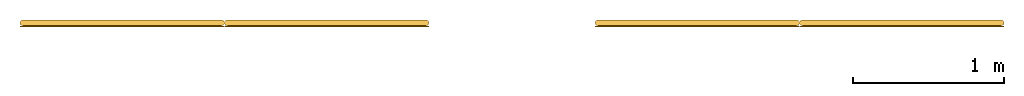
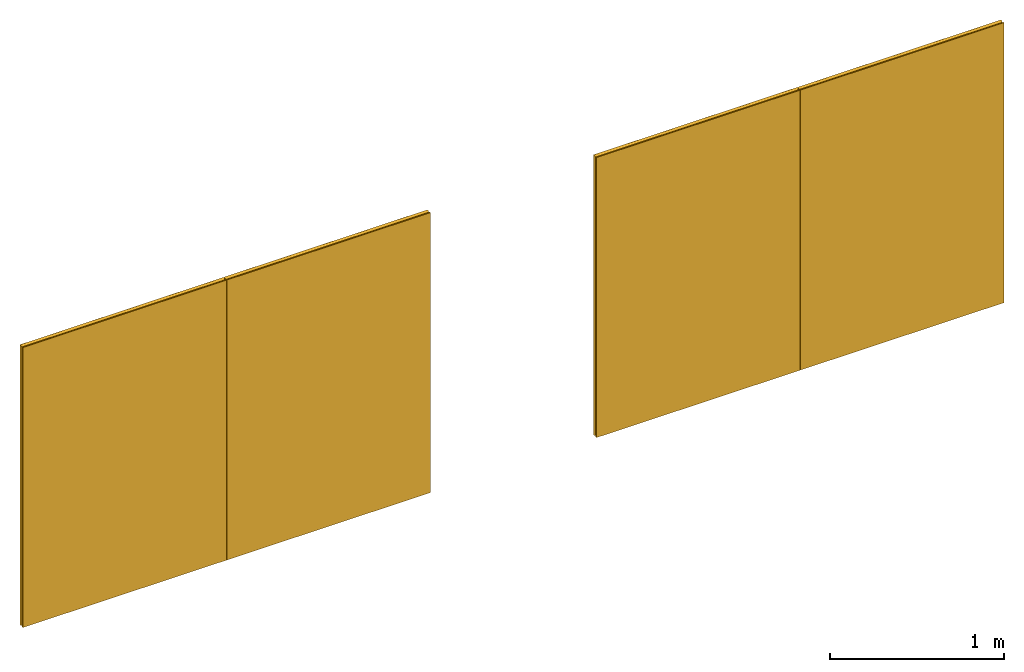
# One storey: 2 doors.
"""IFC2X3 building model written with IfcOpenShell, lengths in metres."""

from ifc_helpers import new_model, entity, si_unit, converted_unit, frame, origin, place, context, project, spatial, face_set, surface_model, source, transform, mapped, type_object, type_shapes, element, save


model = new_model("IFC2X3")

# Units and contexts
model_context = context("Model", 3, precision=1e-09, world=origin())
plan_context = context("Plan", 3, precision=1e-09, world=origin())
ifc_project = project(units=[si_unit("LENGTHUNIT", "METRE"), si_unit("AREAUNIT", "SQUARE_METRE"), si_unit("VOLUMEUNIT", "CUBIC_METRE"), converted_unit("PLANEANGLEUNIT", "DEGREE", entity("IfcRatioMeasure", 0.01745329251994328), si_unit("PLANEANGLEUNIT", "RADIAN"), dimensions=[0, 0, 0, 0, 0, 0, 0]), si_unit("TIMEUNIT", "SECOND")], contexts=[model_context, plan_context])

# Site, building, storey
site_placement = place(None, origin())
site = spatial("IfcSite", under=ifc_project, at=site_placement, Name="Default", CompositionType="ELEMENT")
building_placement = place(site_placement, origin())
building = spatial("IfcBuilding", under=site, at=building_placement, CompositionType="ELEMENT")
storey_placement = place(building_placement, frame((0.0, 0.0, -1.0)))
storey = spatial("IfcBuildingStorey", under=building, at=storey_placement, Name="TOF Footing", CompositionType="ELEMENT", Elevation=-1.000000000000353)

# Doors
door_style = type_object("IfcDoorStyle", Name="M_Curtain Wall Dbl Chain Link", ConstructionType="NOTDEFINED", OperationType="NOTDEFINED", ParameterTakesPrecedence=False, Sizeable=False)
shared_shape = source(origin(), model_context, "Body", "SurfaceModel", [
    surface_model("IfcFaceBasedSurfaceModel", [(-0.001587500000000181, -0.019, 1.962), (-0.001587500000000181, -0.019, 0.0), (-1.350999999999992, -0.019, 0.0), (-1.350999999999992, -0.019, 1.962), (-0.001587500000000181, -0.0269999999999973, 1.962), (-0.001587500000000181, -0.0269999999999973, 0.0), (-1.350999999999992, -0.0269999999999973, 0.0), (-1.350999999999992, -0.0269999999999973, 1.962), (0.00158749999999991, -0.019, 1.962), (1.350999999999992, -0.019, 1.962), (1.350999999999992, -0.019, 0.0), (0.00158749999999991, -0.019, 0.0), (0.00158749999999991, -0.02700000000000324, 1.962), (1.350999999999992, -0.02700000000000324, 1.962), (1.350999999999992, -0.02700000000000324, 0.0), (0.001587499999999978, -0.02700000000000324, 0.0), (1.313647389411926, 0.004917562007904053, 0.03735259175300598), (1.315545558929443, 0.009499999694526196, 0.03545448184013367), (1.313933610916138, 0.005882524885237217, 0.845533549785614), (1.312999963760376, 0.0, 0.03799999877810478), (1.312999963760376, 0.0, 0.8445999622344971), (1.3163822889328, 0.01082068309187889, 0.8479823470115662), (1.318565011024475, 0.01343502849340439, 0.03243502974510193), (1.322499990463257, 0.01645448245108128, 0.02850000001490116), (1.319748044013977, 0.01452208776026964, 0.8513481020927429), (1.32361900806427, 0.01705167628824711, 0.8552190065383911), (1.327082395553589, 0.01835259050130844, 0.02391756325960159), (1.312999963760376, 0.0, 0.882599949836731), (1.313689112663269, 0.005070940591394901, 0.8819108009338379), (1.313647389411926, 0.004917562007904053, 1.924647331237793), (1.312999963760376, 0.0, 1.924000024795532), (1.315545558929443, 0.009499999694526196, 1.92654550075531), (1.315555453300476, 0.009517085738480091, 0.8800446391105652), (1.318212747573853, 0.01307328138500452, 0.877387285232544), (1.318565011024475, 0.01343502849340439, 1.929564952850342), (1.321350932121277, 0.01573517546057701, 0.8742491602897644), (1.322499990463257, 0.01645448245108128, 1.933500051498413), (1.324772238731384, 0.01757153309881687, 0.8708277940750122), (1.336917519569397, 0.01835259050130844, 0.01408243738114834), (1.331999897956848, 0.01899999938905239, 0.01899999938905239), (1.331999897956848, 0.01899999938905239, 0.863599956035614), (1.336917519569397, 0.01835259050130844, 1.947917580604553), (1.327754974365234, 0.01851973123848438, 0.8593550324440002), (1.350352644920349, 0.004917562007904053, 1.961352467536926), (1.350352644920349, 0.004917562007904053, 0.0006474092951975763), (1.348454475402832, 0.009499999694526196, 0.002545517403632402), (1.348454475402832, 0.009499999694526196, 1.959454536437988), (1.3454350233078, 0.01343502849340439, 0.00556497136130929), (1.3454350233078, 0.01343502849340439, 1.956435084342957), (1.341499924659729, 0.01645448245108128, 0.009499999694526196), (1.341499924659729, 0.01645448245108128, 1.952499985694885), (1.35099995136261, 0.0, 1.962000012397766), (1.35099995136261, 0.0, 0.0), (1.328351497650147, 0.01864641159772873, 0.8672484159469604), (1.327082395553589, 0.01835259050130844, 1.938082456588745), (1.331999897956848, 0.01899999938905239, 1.942999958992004), (1.350352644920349, -0.004917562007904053, 0.0006474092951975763), (1.350352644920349, -0.004917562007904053, 1.961352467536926), (1.3454350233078, -0.01343502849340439, 1.956435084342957), (1.3454350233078, -0.01343502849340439, 0.00556497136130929), (1.348454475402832, -0.009499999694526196, 0.002545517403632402), (1.348454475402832, -0.009499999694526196, 1.959454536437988), (1.341499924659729, -0.01645448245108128, 1.952499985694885), (1.341499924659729, -0.01645448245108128, 0.009499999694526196), (1.331999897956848, -0.01899999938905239, 0.863599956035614), (1.331999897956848, -0.01899999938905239, 0.01899999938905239), (1.336917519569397, -0.01835259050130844, 0.01408243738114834), (1.336917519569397, -0.01835259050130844, 1.947917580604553), (1.328351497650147, -0.01864641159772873, 0.8599514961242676), (1.327082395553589, -0.01835259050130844, 0.02391756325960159), (1.328351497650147, -0.01864641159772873, 0.8672484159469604), (1.324772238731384, -0.01757153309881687, 0.8708277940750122), (1.327082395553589, -0.01835259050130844, 1.938082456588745), (1.331999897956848, -0.01899999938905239, 1.942999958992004), (1.322499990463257, -0.01645448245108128, 1.933500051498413), (1.324772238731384, -0.01757153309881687, 0.8563722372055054), (1.322499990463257, -0.01645448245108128, 0.02850000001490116), (1.318565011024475, -0.01343502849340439, 0.03243502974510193), (1.321350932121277, -0.01573517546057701, 0.8529508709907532), (1.318212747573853, -0.01307328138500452, 0.8498127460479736), (1.315545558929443, -0.009499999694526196, 0.03545448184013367), (1.315555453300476, -0.009517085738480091, 0.8471553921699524), (1.313647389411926, -0.004917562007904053, 0.03735259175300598), (1.313689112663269, -0.005070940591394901, 0.8452891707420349), (1.321350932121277, -0.01573517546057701, 0.8742491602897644), (1.318565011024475, -0.01343502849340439, 1.929564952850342), (1.318212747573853, -0.01307328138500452, 0.877387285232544), (1.315545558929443, -0.009499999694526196, 1.92654550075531), (1.313689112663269, -0.005070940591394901, 0.8819108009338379), (1.313647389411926, -0.004917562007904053, 1.924647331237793), (1.315555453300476, -0.009517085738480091, 0.8800446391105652), (0.0262278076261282, 0.01757153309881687, 0.8708277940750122), (0.02264847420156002, 0.01864641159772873, 0.8672484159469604), (0.01899999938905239, 0.01899999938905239, 0.863599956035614), (0.03278728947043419, 0.01307328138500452, 0.877387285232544), (0.02964914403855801, 0.01573517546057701, 0.8742491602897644), (0.03731080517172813, 0.005070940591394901, 0.8819108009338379), (0.03544460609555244, 0.009517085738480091, 0.8800446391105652), (0.03799999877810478, 0.0, 0.882599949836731), (0.03278728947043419, -0.01307328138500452, 0.877387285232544), (0.03544460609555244, -0.009517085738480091, 0.8800446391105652), (0.03731080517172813, -0.005070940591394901, 0.8819108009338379), (0.02264847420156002, -0.01864641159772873, 0.8672484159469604), (0.01899999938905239, -0.01899999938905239, 0.863599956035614), (0.0262278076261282, -0.01757153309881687, 0.8708277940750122), (0.02964914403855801, -0.01573517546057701, 0.8742491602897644), (0.02264847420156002, -0.01864641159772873, 0.8599514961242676), (0.0262278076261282, -0.01757153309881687, 0.8563722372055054), (0.02964914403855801, -0.01573517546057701, 0.8529508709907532), (0.03278728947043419, -0.01307328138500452, 0.8498127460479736), (0.03544460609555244, -0.009517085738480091, 0.8471553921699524), (0.03731080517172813, -0.005070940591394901, 0.8452891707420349), (0.03799999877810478, 0.0, 0.8445999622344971), (0.03706642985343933, 0.005882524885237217, 0.845533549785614), (0.03461770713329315, 0.01082068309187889, 0.8479823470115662), (0.0232449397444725, 0.01851973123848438, 0.8593550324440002), (0.03125189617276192, 0.01452208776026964, 0.8513481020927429), (0.02738095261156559, 0.01705167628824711, 0.8552190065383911), (0.03735259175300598, 0.004917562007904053, 0.03735259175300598), (0.03545448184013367, 0.009499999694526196, 0.03545448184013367), (0.03799999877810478, 0.0, 0.03799999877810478), (0.02850000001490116, 0.01645448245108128, 0.02850000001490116), (0.02391756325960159, 0.01835259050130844, 0.02391756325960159), (0.03243502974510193, 0.01343502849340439, 0.03243502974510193), (0.01899999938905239, 0.01899999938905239, 0.01899999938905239), (0.009499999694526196, 0.01645448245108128, 0.009499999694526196), (0.01408243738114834, 0.01835259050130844, 0.01408243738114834), (0.00556497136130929, 0.01343502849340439, 0.00556497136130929), (0.0006474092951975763, 0.004917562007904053, 0.0006474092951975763), (0.002545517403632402, 0.009499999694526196, 0.002545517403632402), (0.0, 0.0, 0.0), (0.0006474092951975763, -0.004917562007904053, 0.0006474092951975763), (0.002545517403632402, -0.009499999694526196, 0.002545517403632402), (0.009499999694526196, -0.01645448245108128, 0.009499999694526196), (0.00556497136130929, -0.01343502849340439, 0.00556497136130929), (0.01408243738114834, -0.01835259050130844, 0.01408243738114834), (0.01899999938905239, -0.01899999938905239, 0.01899999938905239), (0.02391756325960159, -0.01835259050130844, 0.02391756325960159), (0.02850000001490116, -0.01645448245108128, 0.02850000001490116), (0.03545448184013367, -0.009499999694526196, 0.03545448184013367), (0.03735259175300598, -0.004917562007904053, 0.03735259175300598), (0.03243502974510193, -0.01343502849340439, 0.03243502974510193), (0.03545448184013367, 0.009499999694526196, 1.92654550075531), (0.03735259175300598, 0.004917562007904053, 1.924647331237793), (0.03799999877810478, 0.0, 1.924000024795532), (0.03243502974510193, 0.01343502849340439, 1.929564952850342), (0.02850000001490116, 0.01645448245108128, 1.933500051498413), (0.01899999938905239, 0.01899999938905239, 1.942999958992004), (0.02391756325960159, 0.01835259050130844, 1.938082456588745), (0.01408243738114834, 0.01835259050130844, 1.947917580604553), (0.0006474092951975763, 0.004917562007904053, 1.961352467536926), (0.002545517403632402, 0.009499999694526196, 1.959454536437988), (0.00556497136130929, 0.01343502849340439, 1.956435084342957), (0.009499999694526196, 0.01645448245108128, 1.952499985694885), (0.0, 0.0, 1.962000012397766), (0.0006474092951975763, -0.004917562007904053, 1.961352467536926), (0.00556497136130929, -0.01343502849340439, 1.956435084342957), (0.002545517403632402, -0.009499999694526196, 1.959454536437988), (0.009499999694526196, -0.01645448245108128, 1.952499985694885), (0.01899999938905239, -0.01899999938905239, 1.942999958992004), (0.01408243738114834, -0.01835259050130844, 1.947917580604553), (0.02391756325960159, -0.01835259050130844, 1.938082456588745), (0.02850000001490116, -0.01645448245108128, 1.933500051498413), (0.03243502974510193, -0.01343502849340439, 1.929564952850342), (0.03545448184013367, -0.009499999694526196, 1.92654550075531), (0.03735259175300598, -0.004917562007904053, 1.924647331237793), (-0.03735259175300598, 0.004917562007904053, 0.03735259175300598), (-0.03545448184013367, 0.009499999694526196, 0.03545448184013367), (-0.03706642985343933, 0.005882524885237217, 0.845533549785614), (-0.03799999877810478, 0.0, 0.03799999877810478), (-0.03799999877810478, 0.0, 0.8445999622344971), (-0.03461770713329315, 0.01082068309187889, 0.8479823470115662), (-0.03243502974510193, 0.01343502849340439, 0.03243502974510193), (-0.02850000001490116, 0.01645448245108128, 0.02850000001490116), (-0.03125189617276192, 0.01452208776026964, 0.8513481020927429), (-0.02738095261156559, 0.01705167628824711, 0.8552190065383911), (-0.02391756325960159, 0.01835259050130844, 0.02391756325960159), (-0.03799999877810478, 0.0, 0.882599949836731), (-0.03731080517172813, 0.005070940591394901, 0.8819108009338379), (-0.03735259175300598, 0.004917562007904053, 1.924647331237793), (-0.03799999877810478, 0.0, 1.924000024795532), (-0.03545448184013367, 0.009499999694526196, 1.92654550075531), (-0.03544460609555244, 0.009517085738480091, 0.8800446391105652), (-0.03278728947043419, 0.01307328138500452, 0.877387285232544), (-0.03243502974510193, 0.01343502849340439, 1.929564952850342), (-0.02964914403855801, 0.01573517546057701, 0.8742491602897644), (-0.02850000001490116, 0.01645448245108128, 1.933500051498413), (-0.0262278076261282, 0.01757153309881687, 0.8708277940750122), (-0.01408243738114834, 0.01835259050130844, 0.01408243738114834), (-0.01899999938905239, 0.01899999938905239, 0.01899999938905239), (-0.01899999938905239, 0.01899999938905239, 0.863599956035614), (-0.01408243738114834, 0.01835259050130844, 1.947917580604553), (-0.0232449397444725, 0.01851973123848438, 0.8593550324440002), (-0.0006474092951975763, 0.004917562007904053, 1.961352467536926), (-0.0006474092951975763, 0.004917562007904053, 0.0006474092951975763), (-0.002545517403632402, 0.009499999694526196, 0.002545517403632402), (-0.002545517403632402, 0.009499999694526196, 1.959454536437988), (-0.00556497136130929, 0.01343502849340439, 0.00556497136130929), (-0.00556497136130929, 0.01343502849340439, 1.956435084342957), (-0.009499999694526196, 0.01645448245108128, 0.009499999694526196), (-0.009499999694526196, 0.01645448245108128, 1.952499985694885), (0.0, 0.0, 1.962000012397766), (-0.02264847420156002, 0.01864641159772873, 0.8672484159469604), (-0.02391756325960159, 0.01835259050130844, 1.938082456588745), (-0.01899999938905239, 0.01899999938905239, 1.942999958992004), (-0.0006474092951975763, -0.004917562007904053, 0.0006474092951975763), (-0.0006474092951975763, -0.004917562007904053, 1.961352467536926), (-0.00556497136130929, -0.01343502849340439, 1.956435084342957), (-0.00556497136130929, -0.01343502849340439, 0.00556497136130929), (-0.002545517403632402, -0.009499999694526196, 0.002545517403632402), (-0.002545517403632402, -0.009499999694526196, 1.959454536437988), (-0.009499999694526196, -0.01645448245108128, 1.952499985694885), (-0.009499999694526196, -0.01645448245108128, 0.009499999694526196), (-0.01899999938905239, -0.01899999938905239, 0.863599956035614), (-0.01899999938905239, -0.01899999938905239, 0.01899999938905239), (-0.01408243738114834, -0.01835259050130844, 0.01408243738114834), (-0.01408243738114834, -0.01835259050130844, 1.947917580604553), (-0.02264847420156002, -0.01864641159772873, 0.8599514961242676), (-0.02391756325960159, -0.01835259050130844, 0.02391756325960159), (-0.02264847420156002, -0.01864641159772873, 0.8672484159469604), (-0.0262278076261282, -0.01757153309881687, 0.8708277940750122), (-0.02391756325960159, -0.01835259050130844, 1.938082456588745), (-0.01899999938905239, -0.01899999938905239, 1.942999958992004), (-0.02850000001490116, -0.01645448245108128, 1.933500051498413), (-0.0262278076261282, -0.01757153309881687, 0.8563722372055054), (-0.02850000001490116, -0.01645448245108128, 0.02850000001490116), (-0.03243502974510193, -0.01343502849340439, 0.03243502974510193), (-0.02964914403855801, -0.01573517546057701, 0.8529508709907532), (-0.03278728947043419, -0.01307328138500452, 0.8498127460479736), (-0.03545448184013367, -0.009499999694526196, 0.03545448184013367), (-0.03544460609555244, -0.009517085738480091, 0.8471553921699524), (-0.03735259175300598, -0.004917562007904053, 0.03735259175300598), (-0.03731080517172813, -0.005070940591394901, 0.8452891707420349), (-0.02964914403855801, -0.01573517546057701, 0.8742491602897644), (-0.03243502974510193, -0.01343502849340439, 1.929564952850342), (-0.03278728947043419, -0.01307328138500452, 0.877387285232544), (-0.03545448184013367, -0.009499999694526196, 1.92654550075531), (-0.03731080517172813, -0.005070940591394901, 0.8819108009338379), (-0.03735259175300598, -0.004917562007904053, 1.924647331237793), (-0.03544460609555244, -0.009517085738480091, 0.8800446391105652), (-1.324772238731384, 0.01757153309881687, 0.8708277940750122), (-1.328351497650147, 0.01864641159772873, 0.8672484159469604), (-1.331999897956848, 0.01899999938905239, 0.863599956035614), (-1.318212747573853, 0.01307328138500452, 0.877387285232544), (-1.321350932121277, 0.01573517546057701, 0.8742491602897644), (-1.313689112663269, 0.005070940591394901, 0.8819108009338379), (-1.315555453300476, 0.009517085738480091, 0.8800446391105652), (-1.312999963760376, 0.0, 0.882599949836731), (-1.318212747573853, -0.01307328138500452, 0.877387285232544), (-1.315555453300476, -0.009517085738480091, 0.8800446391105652), (-1.313689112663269, -0.005070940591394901, 0.8819108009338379), (-1.328351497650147, -0.01864641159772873, 0.8672484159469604), (-1.331999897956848, -0.01899999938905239, 0.863599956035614), (-1.324772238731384, -0.01757153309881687, 0.8708277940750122), (-1.321350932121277, -0.01573517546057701, 0.8742491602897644), (-1.328351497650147, -0.01864641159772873, 0.8599514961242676), (-1.324772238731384, -0.01757153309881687, 0.8563722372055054), (-1.321350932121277, -0.01573517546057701, 0.8529508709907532), (-1.318212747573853, -0.01307328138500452, 0.8498127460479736), (-1.315555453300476, -0.009517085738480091, 0.8471553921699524), (-1.313689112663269, -0.005070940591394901, 0.8452891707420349), (-1.312999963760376, 0.0, 0.8445999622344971), (-1.313933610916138, 0.005882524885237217, 0.845533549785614), (-1.3163822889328, 0.01082068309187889, 0.8479823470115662), (-1.327754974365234, 0.01851973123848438, 0.8593550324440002), (-1.319748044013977, 0.01452208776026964, 0.8513481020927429), (-1.32361900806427, 0.01705167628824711, 0.8552190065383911), (-1.313647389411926, 0.004917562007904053, 0.03735259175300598), (-1.315545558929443, 0.009499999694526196, 0.03545448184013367), (-1.312999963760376, 0.0, 0.03799999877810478), (-1.322499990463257, 0.01645448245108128, 0.02850000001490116), (-1.327082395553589, 0.01835259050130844, 0.02391756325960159), (-1.318565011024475, 0.01343502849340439, 0.03243502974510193), (-1.331999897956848, 0.01899999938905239, 0.01899999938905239), (-1.341499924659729, 0.01645448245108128, 0.009499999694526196), (-1.336917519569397, 0.01835259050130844, 0.01408243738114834), (-1.3454350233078, 0.01343502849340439, 0.00556497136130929), (-1.350352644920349, 0.004917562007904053, 0.0006474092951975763), (-1.348454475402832, 0.009499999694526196, 0.002545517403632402), (-1.35099995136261, 0.0, 0.0), (-1.350352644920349, -0.004917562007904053, 0.0006474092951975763), (-1.348454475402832, -0.009499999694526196, 0.002545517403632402), (-1.341499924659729, -0.01645448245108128, 0.009499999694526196), (-1.3454350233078, -0.01343502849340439, 0.00556497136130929), (-1.336917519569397, -0.01835259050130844, 0.01408243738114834), (-1.331999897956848, -0.01899999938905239, 0.01899999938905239), (-1.327082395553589, -0.01835259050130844, 0.02391756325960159), (-1.322499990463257, -0.01645448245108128, 0.02850000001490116), (-1.315545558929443, -0.009499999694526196, 0.03545448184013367), (-1.313647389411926, -0.004917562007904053, 0.03735259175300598), (-1.318565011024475, -0.01343502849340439, 0.03243502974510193), (-1.315545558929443, 0.009499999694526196, 1.92654550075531), (-1.313647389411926, 0.004917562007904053, 1.924647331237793), (-1.312999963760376, 0.0, 1.924000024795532), (-1.318565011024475, 0.01343502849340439, 1.929564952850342), (-1.322499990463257, 0.01645448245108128, 1.933500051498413), (-1.331999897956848, 0.01899999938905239, 1.942999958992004), (-1.327082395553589, 0.01835259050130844, 1.938082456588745), (-1.336917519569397, 0.01835259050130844, 1.947917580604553), (-1.350352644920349, 0.004917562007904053, 1.961352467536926), (-1.348454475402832, 0.009499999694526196, 1.959454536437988), (-1.3454350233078, 0.01343502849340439, 1.956435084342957), (-1.341499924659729, 0.01645448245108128, 1.952499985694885), (-1.35099995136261, 0.0, 1.962000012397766), (-1.350352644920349, -0.004917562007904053, 1.961352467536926), (-1.3454350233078, -0.01343502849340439, 1.956435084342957), (-1.348454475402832, -0.009499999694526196, 1.959454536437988), (-1.341499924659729, -0.01645448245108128, 1.952499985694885), (-1.331999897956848, -0.01899999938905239, 1.942999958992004), (-1.336917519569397, -0.01835259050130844, 1.947917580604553), (-1.327082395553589, -0.01835259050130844, 1.938082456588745), (-1.322499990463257, -0.01645448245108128, 1.933500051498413), (-1.318565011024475, -0.01343502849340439, 1.929564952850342), (-1.315545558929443, -0.009499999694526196, 1.92654550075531), (-1.313647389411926, -0.004917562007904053, 1.924647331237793)], [face_set([[[0, 1, 2, 3]], [[4, 5, 6, 7]], [[3, 0, 4, 7]], [[2, 3, 7, 6]], [[1, 5, 6, 2]], [[0, 4, 5, 1]]]), face_set([[[8, 9, 10, 11]], [[12, 13, 14, 15]], [[11, 15, 12, 8]], [[10, 14, 15, 11]], [[9, 10, 14, 13]], [[8, 9, 13, 12]]]), face_set([[[16, 17, 18]], [[19, 16, 20]], [[20, 16, 18]], [[17, 21, 18]], [[22, 23, 24]], [[24, 21, 22]], [[25, 24, 23]], [[25, 23, 26]], [[22, 21, 17]], [[27, 28, 29]], [[29, 30, 27]], [[29, 28, 31]], [[32, 31, 28]], [[33, 31, 32]], [[34, 33, 35]], [[33, 34, 31]], [[35, 36, 34]], [[37, 36, 35]], [[38, 39, 40, 41]], [[42, 26, 39]], [[42, 39, 40]], [[43, 44, 45, 46]], [[46, 45, 47, 48]], [[48, 47, 49, 50]], [[50, 49, 38, 41]], [[51, 52, 44, 43]], [[37, 53, 54]], [[53, 55, 54]], [[53, 40, 55]], [[40, 55, 41]], [[37, 54, 36]], [[25, 26, 42]], [[56, 52, 51, 57]], [[58, 59, 60, 61]], [[61, 60, 56, 57]], [[62, 63, 59, 58]], [[64, 65, 66, 67]], [[65, 68, 64]], [[68, 65, 69]], [[67, 66, 63, 62]], [[70, 71, 72]], [[64, 67, 73]], [[73, 70, 72]], [[71, 74, 72]], [[73, 64, 70]], [[68, 69, 75]], [[76, 77, 78]], [[79, 78, 77]], [[80, 81, 79]], [[79, 77, 80]], [[76, 78, 75]], [[80, 82, 83]], [[82, 20, 83]], [[20, 82, 19]], [[80, 83, 81]], [[84, 74, 71]], [[84, 85, 74]], [[85, 84, 86]], [[85, 86, 87]], [[88, 27, 89]], [[90, 88, 87]], [[89, 87, 88]], [[30, 89, 27]], [[90, 87, 86]], [[76, 75, 69]], [[91, 92, 53, 37]], [[92, 53, 40, 93]], [[94, 95, 35, 33]], [[96, 97, 32, 28]], [[97, 94, 33, 32]], [[95, 91, 37, 35]], [[28, 27, 98, 96]], [[99, 100, 90, 86]], [[100, 101, 88, 90]], [[64, 70, 102, 103]], [[104, 105, 84, 71]], [[102, 104, 71, 70]], [[105, 99, 86, 84]], [[27, 88, 101, 98]], [[75, 68, 106, 107]], [[68, 64, 103, 106]], [[79, 78, 108, 109]], [[83, 81, 110, 111]], [[81, 79, 109, 110]], [[78, 75, 107, 108]], [[20, 83, 111, 112]], [[21, 18, 113, 114]], [[18, 20, 112, 113]], [[40, 42, 115, 93]], [[25, 24, 116, 117]], [[42, 25, 117, 115]], [[24, 21, 114, 116]], [[16, 118, 119, 17]], [[19, 120, 118, 16]], [[23, 121, 122, 26]], [[22, 123, 121, 23]], [[17, 119, 123, 22]], [[124, 39, 26, 122]], [[49, 125, 126, 38]], [[47, 127, 125, 49]], [[44, 128, 129, 45]], [[45, 129, 127, 47]], [[52, 130, 128, 44]], [[38, 126, 124, 39]], [[131, 130, 52, 56]], [[60, 132, 131, 56]], [[63, 133, 134, 59]], [[59, 134, 132, 60]], [[66, 135, 133, 63]], [[135, 66, 65, 136]], [[69, 137, 138, 76]], [[65, 136, 137, 69]], [[80, 139, 140, 82]], [[77, 141, 139, 80]], [[76, 138, 141, 77]], [[120, 19, 82, 140]], [[142, 96, 143]], [[144, 143, 98]], [[98, 143, 96]], [[142, 97, 96]], [[145, 146, 95]], [[97, 142, 94]], [[95, 94, 145]], [[91, 95, 146]], [[94, 142, 145]], [[113, 118, 112]], [[118, 120, 112]], [[119, 118, 113]], [[114, 119, 113]], [[123, 116, 121]], [[114, 123, 119]], [[123, 114, 116]], [[121, 116, 117]], [[92, 147, 93]], [[91, 148, 92]], [[148, 91, 146]], [[92, 148, 147]], [[149, 147, 93]], [[128, 150, 151, 129]], [[129, 151, 152, 127]], [[127, 152, 153, 125]], [[125, 153, 149, 126]], [[130, 154, 150, 128]], [[122, 115, 124]], [[115, 93, 124]], [[93, 124, 126, 149]], [[122, 117, 115]], [[122, 121, 117]], [[155, 154, 130, 131]], [[134, 156, 157, 132]], [[132, 157, 155, 131]], [[133, 158, 156, 134]], [[103, 159, 160, 135]], [[159, 102, 103]], [[102, 159, 161]], [[135, 160, 158, 133]], [[106, 107, 137]], [[103, 135, 136]], [[136, 106, 137]], [[107, 138, 137]], [[136, 103, 106]], [[102, 161, 104]], [[162, 163, 105]], [[99, 105, 163]], [[164, 100, 99]], [[99, 163, 164]], [[162, 105, 104]], [[164, 165, 101]], [[165, 98, 101]], [[98, 165, 144]], [[164, 101, 100]], [[108, 138, 107]], [[108, 141, 138]], [[141, 108, 109]], [[141, 109, 139]], [[111, 112, 140]], [[110, 111, 139]], [[140, 139, 111]], [[120, 140, 112]], [[110, 139, 109]], [[162, 104, 161]], [[143, 29, 31, 142]], [[144, 30, 29, 143]], [[146, 36, 54, 148]], [[145, 34, 36, 146]], [[142, 31, 34, 145]], [[55, 147, 148, 54]], [[153, 50, 41, 149]], [[152, 48, 50, 153]], [[150, 43, 46, 151]], [[151, 46, 48, 152]], [[154, 51, 43, 150]], [[149, 41, 55, 147]], [[57, 51, 154, 155]], [[157, 61, 57, 155]], [[158, 62, 58, 156]], [[156, 58, 61, 157]], [[160, 67, 62, 158]], [[67, 160, 159, 73]], [[161, 72, 74, 162]], [[159, 73, 72, 161]], [[164, 87, 89, 165]], [[163, 85, 87, 164]], [[162, 74, 85, 163]], [[30, 144, 165, 89]]]), face_set([[[166, 167, 168]], [[169, 166, 170]], [[170, 166, 168]], [[167, 171, 168]], [[172, 173, 174]], [[174, 171, 172]], [[175, 174, 173]], [[175, 173, 176]], [[172, 171, 167]], [[177, 178, 179]], [[179, 180, 177]], [[179, 178, 181]], [[182, 181, 178]], [[183, 181, 182]], [[184, 183, 185]], [[183, 184, 181]], [[185, 186, 184]], [[187, 186, 185]], [[188, 189, 190, 191]], [[192, 176, 189]], [[192, 189, 190]], [[193, 194, 195, 196]], [[196, 195, 197, 198]], [[198, 197, 199, 200]], [[200, 199, 188, 191]], [[201, 130, 194, 193]], [[187, 202, 203]], [[202, 204, 203]], [[202, 190, 204]], [[190, 204, 191]], [[187, 203, 186]], [[175, 176, 192]], [[205, 130, 201, 206]], [[207, 208, 209, 210]], [[210, 209, 205, 206]], [[211, 212, 208, 207]], [[213, 214, 215, 216]], [[214, 217, 213]], [[217, 214, 218]], [[216, 215, 212, 211]], [[219, 220, 221]], [[213, 216, 222]], [[222, 219, 221]], [[220, 223, 221]], [[222, 213, 219]], [[217, 218, 224]], [[225, 226, 227]], [[228, 227, 226]], [[229, 230, 228]], [[228, 226, 229]], [[225, 227, 224]], [[229, 231, 232]], [[231, 170, 232]], [[170, 231, 169]], [[229, 232, 230]], [[233, 223, 220]], [[233, 234, 223]], [[234, 233, 235]], [[234, 235, 236]], [[237, 177, 238]], [[239, 237, 236]], [[238, 236, 237]], [[180, 238, 177]], [[239, 236, 235]], [[225, 224, 218]], [[240, 241, 202, 187]], [[241, 202, 190, 242]], [[243, 244, 185, 183]], [[245, 246, 182, 178]], [[246, 243, 183, 182]], [[244, 240, 187, 185]], [[178, 177, 247, 245]], [[248, 249, 239, 235]], [[249, 250, 237, 239]], [[213, 219, 251, 252]], [[253, 254, 233, 220]], [[251, 253, 220, 219]], [[254, 248, 235, 233]], [[177, 237, 250, 247]], [[224, 217, 255, 256]], [[217, 213, 252, 255]], [[228, 227, 257, 258]], [[232, 230, 259, 260]], [[230, 228, 258, 259]], [[227, 224, 256, 257]], [[170, 232, 260, 261]], [[171, 168, 262, 263]], [[168, 170, 261, 262]], [[190, 192, 264, 242]], [[175, 174, 265, 266]], [[192, 175, 266, 264]], [[174, 171, 263, 265]], [[166, 267, 268, 167]], [[169, 269, 267, 166]], [[173, 270, 271, 176]], [[172, 272, 270, 173]], [[167, 268, 272, 172]], [[273, 189, 176, 271]], [[199, 274, 275, 188]], [[197, 276, 274, 199]], [[194, 277, 278, 195]], [[195, 278, 276, 197]], [[130, 279, 277, 194]], [[188, 275, 273, 189]], [[280, 279, 130, 205]], [[209, 281, 280, 205]], [[212, 282, 283, 208]], [[208, 283, 281, 209]], [[215, 284, 282, 212]], [[284, 215, 214, 285]], [[218, 286, 287, 225]], [[214, 285, 286, 218]], [[229, 288, 289, 231]], [[226, 290, 288, 229]], [[225, 287, 290, 226]], [[269, 169, 231, 289]], [[291, 245, 292]], [[293, 292, 247]], [[247, 292, 245]], [[291, 246, 245]], [[294, 295, 244]], [[246, 291, 243]], [[244, 243, 294]], [[240, 244, 295]], [[243, 291, 294]], [[262, 267, 261]], [[267, 269, 261]], [[268, 267, 262]], [[263, 268, 262]], [[272, 265, 270]], [[263, 272, 268]], [[272, 263, 265]], [[270, 265, 266]], [[241, 296, 242]], [[240, 297, 241]], [[297, 240, 295]], [[241, 297, 296]], [[298, 296, 242]], [[277, 299, 300, 278]], [[278, 300, 301, 276]], [[276, 301, 302, 274]], [[274, 302, 298, 275]], [[279, 303, 299, 277]], [[271, 264, 273]], [[264, 242, 273]], [[242, 273, 275, 298]], [[271, 266, 264]], [[271, 270, 266]], [[304, 303, 279, 280]], [[283, 305, 306, 281]], [[281, 306, 304, 280]], [[282, 307, 305, 283]], [[252, 308, 309, 284]], [[308, 251, 252]], [[251, 308, 310]], [[284, 309, 307, 282]], [[255, 256, 286]], [[252, 284, 285]], [[285, 255, 286]], [[256, 287, 286]], [[285, 252, 255]], [[251, 310, 253]], [[311, 312, 254]], [[248, 254, 312]], [[313, 249, 248]], [[248, 312, 313]], [[311, 254, 253]], [[313, 314, 250]], [[314, 247, 250]], [[247, 314, 293]], [[313, 250, 249]], [[257, 287, 256]], [[257, 290, 287]], [[290, 257, 258]], [[290, 258, 288]], [[260, 261, 289]], [[259, 260, 288]], [[289, 288, 260]], [[269, 289, 261]], [[259, 288, 258]], [[311, 253, 310]], [[292, 179, 181, 291]], [[293, 180, 179, 292]], [[295, 186, 203, 297]], [[294, 184, 186, 295]], [[291, 181, 184, 294]], [[204, 296, 297, 203]], [[302, 200, 191, 298]], [[301, 198, 200, 302]], [[299, 193, 196, 300]], [[300, 196, 198, 301]], [[303, 201, 193, 299]], [[298, 191, 204, 296]], [[206, 201, 303, 304]], [[306, 210, 206, 304]], [[307, 211, 207, 305]], [[305, 207, 210, 306]], [[309, 216, 211, 307]], [[216, 309, 308, 222]], [[310, 221, 223, 311]], [[308, 222, 221, 310]], [[313, 236, 238, 314]], [[312, 234, 236, 313]], [[311, 223, 234, 312]], [[180, 293, 314, 238]]])]),
])
type_shapes(door_style, [shared_shape])
for number, where in (
    (1, (-36.67916183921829, -9.554161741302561, 0.0)),
    (2, (-32.87879311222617, -9.554161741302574, 0.0)),
):
    element("IfcDoor", number, at=place(storey_placement, frame(where)), inside=storey, type_object=door_style, Name="M_Curtain Wall Dbl Chain Link:M_Curtain Wall Dbl Chain Link:M_Curtain Wall Dbl Chain Link", ObjectType="M_Curtain Wall Dbl Chain Link", OverallHeight=1.963855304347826, OverallWidth=2.701999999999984, context=model_context, shape_type="MappedRepresentation", body=[
        mapped(shared_shape, transform((0.0, 0.0, 0.0), scale=1.0)),
    ])

save(model, "model.ifc")
